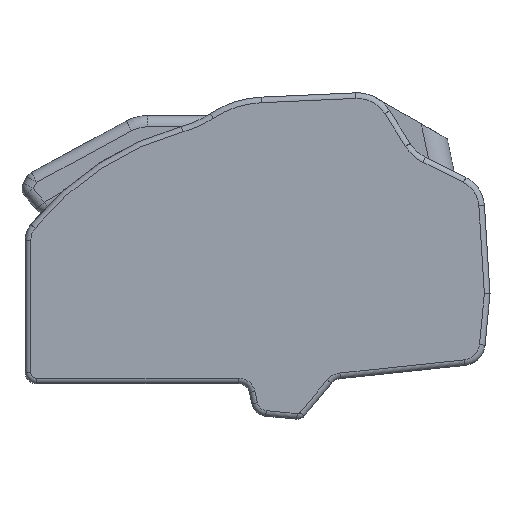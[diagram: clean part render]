
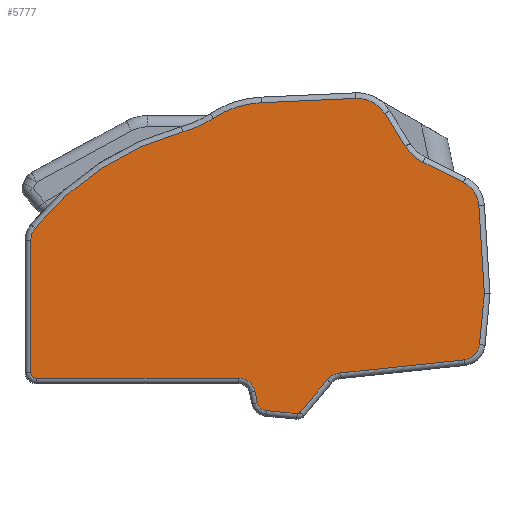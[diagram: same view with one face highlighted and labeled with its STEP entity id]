
A CAD part, front view. The second image highlights one B-rep face of the part: STEP entity #5777.
In plain terms, the highlighted planar face has unit normal (0, -1, 0).
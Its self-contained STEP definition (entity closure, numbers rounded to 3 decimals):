
#301=CIRCLE('',#6220,0.15);
#302=CIRCLE('',#6221,0.85);
#303=CIRCLE('',#6222,0.75);
#304=CIRCLE('',#6223,1.25);
#305=CIRCLE('',#6224,1.95);
#306=CIRCLE('',#6225,1.45);
#307=CIRCLE('',#6226,4.25);
#308=CIRCLE('',#6227,4.75);
#309=CIRCLE('',#6228,12.75);
#310=CIRCLE('',#6229,0.85);
#311=CIRCLE('',#6230,0.25);
#312=CIRCLE('',#6231,0.75);
#313=CIRCLE('',#6232,0.45);
#776=ORIENTED_EDGE('',*,*,#2535,.T.);
#777=ORIENTED_EDGE('',*,*,#2536,.T.);
#778=ORIENTED_EDGE('',*,*,#2537,.T.);
#779=ORIENTED_EDGE('',*,*,#2538,.T.);
#780=ORIENTED_EDGE('',*,*,#2539,.T.);
#781=ORIENTED_EDGE('',*,*,#2540,.T.);
#782=ORIENTED_EDGE('',*,*,#2541,.T.);
#783=ORIENTED_EDGE('',*,*,#2542,.T.);
#784=ORIENTED_EDGE('',*,*,#2543,.T.);
#785=ORIENTED_EDGE('',*,*,#2544,.T.);
#786=ORIENTED_EDGE('',*,*,#2545,.T.);
#787=ORIENTED_EDGE('',*,*,#2546,.T.);
#788=ORIENTED_EDGE('',*,*,#2547,.T.);
#789=ORIENTED_EDGE('',*,*,#2548,.T.);
#790=ORIENTED_EDGE('',*,*,#2549,.T.);
#791=ORIENTED_EDGE('',*,*,#2550,.T.);
#792=ORIENTED_EDGE('',*,*,#2551,.T.);
#793=ORIENTED_EDGE('',*,*,#2552,.T.);
#794=ORIENTED_EDGE('',*,*,#2553,.T.);
#795=ORIENTED_EDGE('',*,*,#2554,.T.);
#796=ORIENTED_EDGE('',*,*,#2555,.T.);
#797=ORIENTED_EDGE('',*,*,#2556,.T.);
#798=ORIENTED_EDGE('',*,*,#2557,.T.);
#799=ORIENTED_EDGE('',*,*,#2558,.T.);
#2535=EDGE_CURVE('',#3403,#3404,#3893,.T.);
#2536=EDGE_CURVE('',#3404,#3405,#301,.T.);
#2537=EDGE_CURVE('',#3405,#3406,#3894,.T.);
#2538=EDGE_CURVE('',#3406,#3407,#302,.F.);
#2539=EDGE_CURVE('',#3407,#3408,#3895,.T.);
#2540=EDGE_CURVE('',#3408,#3409,#303,.T.);
#2541=EDGE_CURVE('',#3409,#3410,#3896,.T.);
#2542=EDGE_CURVE('',#3410,#3411,#3897,.T.);
#2543=EDGE_CURVE('',#3411,#3412,#304,.T.);
#2544=EDGE_CURVE('',#3412,#3413,#3898,.T.);
#2545=EDGE_CURVE('',#3413,#3414,#305,.F.);
#2546=EDGE_CURVE('',#3414,#3415,#3899,.T.);
#2547=EDGE_CURVE('',#3415,#3416,#306,.T.);
#2548=EDGE_CURVE('',#3416,#3417,#3900,.T.);
#2549=EDGE_CURVE('',#3417,#3418,#307,.T.);
#2550=EDGE_CURVE('',#3418,#3419,#308,.F.);
#2551=EDGE_CURVE('',#3419,#3420,#309,.T.);
#2552=EDGE_CURVE('',#3420,#3421,#310,.T.);
#2553=EDGE_CURVE('',#3421,#3422,#3901,.T.);
#2554=EDGE_CURVE('',#3422,#3423,#311,.T.);
#2555=EDGE_CURVE('',#3423,#3424,#3902,.T.);
#2556=EDGE_CURVE('',#3424,#3425,#312,.F.);
#2557=EDGE_CURVE('',#3425,#3426,#3903,.T.);
#2558=EDGE_CURVE('',#3426,#3403,#313,.T.);
#3403=VERTEX_POINT('',#8982);
#3404=VERTEX_POINT('',#8983);
#3405=VERTEX_POINT('',#8985);
#3406=VERTEX_POINT('',#8987);
#3407=VERTEX_POINT('',#8989);
#3408=VERTEX_POINT('',#8991);
#3409=VERTEX_POINT('',#8993);
#3410=VERTEX_POINT('',#8995);
#3411=VERTEX_POINT('',#8997);
#3412=VERTEX_POINT('',#8999);
#3413=VERTEX_POINT('',#9001);
#3414=VERTEX_POINT('',#9003);
#3415=VERTEX_POINT('',#9005);
#3416=VERTEX_POINT('',#9007);
#3417=VERTEX_POINT('',#9009);
#3418=VERTEX_POINT('',#9011);
#3419=VERTEX_POINT('',#9013);
#3420=VERTEX_POINT('',#9015);
#3421=VERTEX_POINT('',#9017);
#3422=VERTEX_POINT('',#9019);
#3423=VERTEX_POINT('',#9021);
#3424=VERTEX_POINT('',#9023);
#3425=VERTEX_POINT('',#9025);
#3426=VERTEX_POINT('',#9027);
#3893=LINE('',#8981,#4446);
#3894=LINE('',#8986,#4447);
#3895=LINE('',#8990,#4448);
#3896=LINE('',#8994,#4449);
#3897=LINE('',#8996,#4450);
#3898=LINE('',#9000,#4451);
#3899=LINE('',#9004,#4452);
#3900=LINE('',#9008,#4453);
#3901=LINE('',#9018,#4454);
#3902=LINE('',#9022,#4455);
#3903=LINE('',#9026,#4456);
#4446=VECTOR('',#7099,1000.);
#4447=VECTOR('',#7102,1000.);
#4448=VECTOR('',#7105,1000.);
#4449=VECTOR('',#7108,1000.);
#4450=VECTOR('',#7109,1000.);
#4451=VECTOR('',#7112,1000.);
#4452=VECTOR('',#7115,1000.);
#4453=VECTOR('',#7118,1000.);
#4454=VECTOR('',#7127,1000.);
#4455=VECTOR('',#7130,1000.);
#4456=VECTOR('',#7133,1000.);
#4921=EDGE_LOOP('',(#776,#777,#778,#779,#780,#781,#782,#783,#784,#785,#786,
#787,#788,#789,#790,#791,#792,#793,#794,#795,#796,#797,#798,#799));
#5266=FACE_BOUND('',#4921,.T.);
#5596=PLANE('',#6219);
#5777=ADVANCED_FACE('',(#5266),#5596,.T.);
#6219=AXIS2_PLACEMENT_3D('',#8980,#7097,#7098);
#6220=AXIS2_PLACEMENT_3D('',#8984,#7100,#7101);
#6221=AXIS2_PLACEMENT_3D('',#8988,#7103,#7104);
#6222=AXIS2_PLACEMENT_3D('',#8992,#7106,#7107);
#6223=AXIS2_PLACEMENT_3D('',#8998,#7110,#7111);
#6224=AXIS2_PLACEMENT_3D('',#9002,#7113,#7114);
#6225=AXIS2_PLACEMENT_3D('',#9006,#7116,#7117);
#6226=AXIS2_PLACEMENT_3D('',#9010,#7119,#7120);
#6227=AXIS2_PLACEMENT_3D('',#9012,#7121,#7122);
#6228=AXIS2_PLACEMENT_3D('',#9014,#7123,#7124);
#6229=AXIS2_PLACEMENT_3D('',#9016,#7125,#7126);
#6230=AXIS2_PLACEMENT_3D('',#9020,#7128,#7129);
#6231=AXIS2_PLACEMENT_3D('',#9024,#7131,#7132);
#6232=AXIS2_PLACEMENT_3D('',#9028,#7134,#7135);
#7097=DIRECTION('',(0.,-1.,0.));
#7098=DIRECTION('',(0.,0.,-1.));
#7099=DIRECTION('',(0.995,0.,-0.095));
#7100=DIRECTION('',(0.,-1.,0.));
#7101=DIRECTION('',(0.,0.,-1.));
#7102=DIRECTION('',(0.64,0.,0.768));
#7103=DIRECTION('',(0.,-1.,0.));
#7104=DIRECTION('',(0.,0.,-1.));
#7105=DIRECTION('',(0.994,0.,0.105));
#7106=DIRECTION('',(0.,-1.,0.));
#7107=DIRECTION('',(0.,0.,-1.));
#7108=DIRECTION('',(0.096,0.,0.995));
#7109=DIRECTION('',(-0.062,0.,0.998));
#7110=DIRECTION('',(0.,-1.,0.));
#7111=DIRECTION('',(0.,0.,-1.));
#7112=DIRECTION('',(-0.894,0.,0.447));
#7113=DIRECTION('',(0.,-1.,0.));
#7114=DIRECTION('',(0.,0.,-1.));
#7115=DIRECTION('',(-0.533,0.,0.846));
#7116=DIRECTION('',(0.,-1.,0.));
#7117=DIRECTION('',(0.,0.,-1.));
#7118=DIRECTION('',(-0.999,0.,-0.045));
#7119=DIRECTION('',(0.,-1.,0.));
#7120=DIRECTION('',(0.,0.,-1.));
#7121=DIRECTION('',(0.,-1.,0.));
#7122=DIRECTION('',(0.,0.,-1.));
#7123=DIRECTION('',(0.,-1.,0.));
#7124=DIRECTION('',(0.,0.,-1.));
#7125=DIRECTION('',(0.,-1.,0.));
#7126=DIRECTION('',(0.,0.,-1.));
#7127=DIRECTION('',(0.,0.,-1.));
#7128=DIRECTION('',(0.,-1.,0.));
#7129=DIRECTION('',(0.,0.,-1.));
#7130=DIRECTION('',(1.,0.,0.));
#7131=DIRECTION('',(0.,-1.,0.));
#7132=DIRECTION('',(0.,0.,-1.));
#7133=DIRECTION('',(0.21,0.,-0.978));
#7134=DIRECTION('',(0.,-1.,0.));
#7135=DIRECTION('',(0.,0.,-1.));
#8980=CARTESIAN_POINT('',(-3.697,-13.,6.395));
#8981=CARTESIAN_POINT('',(7.317,-13.,-1.331));
#8982=CARTESIAN_POINT('',(5.937,-13.,-1.2));
#8983=CARTESIAN_POINT('',(7.317,-13.,-1.331));
#8984=CARTESIAN_POINT('',(7.331,-13.,-1.182));
#8985=CARTESIAN_POINT('',(7.446,-13.,-1.278));
#8986=CARTESIAN_POINT('',(8.655,-13.,0.173));
#8987=CARTESIAN_POINT('',(8.655,-13.,0.173));
#8988=CARTESIAN_POINT('',(9.308,-13.,-0.371));
#8989=CARTESIAN_POINT('',(9.219,-13.,0.474));
#8990=CARTESIAN_POINT('',(14.765,-13.,1.063));
#8991=CARTESIAN_POINT('',(14.765,-13.,1.063));
#8992=CARTESIAN_POINT('',(14.686,-13.,1.808));
#8993=CARTESIAN_POINT('',(15.433,-13.,1.736));
#8994=CARTESIAN_POINT('',(15.654,-13.,4.024));
#8995=CARTESIAN_POINT('',(15.652,-13.,4.004));
#8996=CARTESIAN_POINT('',(15.407,-13.,7.923));
#8997=CARTESIAN_POINT('',(15.407,-13.,7.923));
#8998=CARTESIAN_POINT('',(14.16,-13.,7.845));
#8999=CARTESIAN_POINT('',(14.719,-13.,8.963));
#9000=CARTESIAN_POINT('',(12.916,-13.,9.864));
#9001=CARTESIAN_POINT('',(12.916,-13.,9.864));
#9002=CARTESIAN_POINT('',(13.788,-13.,11.608));
#9003=CARTESIAN_POINT('',(12.138,-13.,10.569));
#9004=CARTESIAN_POINT('',(11.219,-13.,12.03));
#9005=CARTESIAN_POINT('',(11.219,-13.,12.03));
#9006=CARTESIAN_POINT('',(9.992,-13.,11.257));
#9007=CARTESIAN_POINT('',(9.926,-13.,12.706));
#9008=CARTESIAN_POINT('',(5.714,-13.,12.515));
#9009=CARTESIAN_POINT('',(5.714,-13.,12.515));
#9010=CARTESIAN_POINT('',(5.906,-13.,8.269));
#9011=CARTESIAN_POINT('',(3.58,-13.,11.826));
#9012=CARTESIAN_POINT('',(0.98,-13.,15.801));
#9013=CARTESIAN_POINT('',(2.221,-13.,11.216));
#9014=CARTESIAN_POINT('',(5.554,-13.,-1.091));
#9015=CARTESIAN_POINT('',(-4.358,-13.,6.93));
#9016=CARTESIAN_POINT('',(-3.697,-13.,6.395));
#9017=CARTESIAN_POINT('',(-4.547,-13.,6.395));
#9018=CARTESIAN_POINT('',(-4.547,-13.,0.5));
#9019=CARTESIAN_POINT('',(-4.547,-13.,0.5));
#9020=CARTESIAN_POINT('',(-4.297,-13.,0.5));
#9021=CARTESIAN_POINT('',(-4.297,-13.,0.25));
#9022=CARTESIAN_POINT('',(4.699,-13.,0.25));
#9023=CARTESIAN_POINT('',(4.699,-13.,0.25));
#9024=CARTESIAN_POINT('',(4.699,-13.,-0.5));
#9025=CARTESIAN_POINT('',(5.432,-13.,-0.343));
#9026=CARTESIAN_POINT('',(5.54,-13.,-0.846));
#9027=CARTESIAN_POINT('',(5.54,-13.,-0.846));
#9028=CARTESIAN_POINT('',(5.98,-13.,-0.752));
